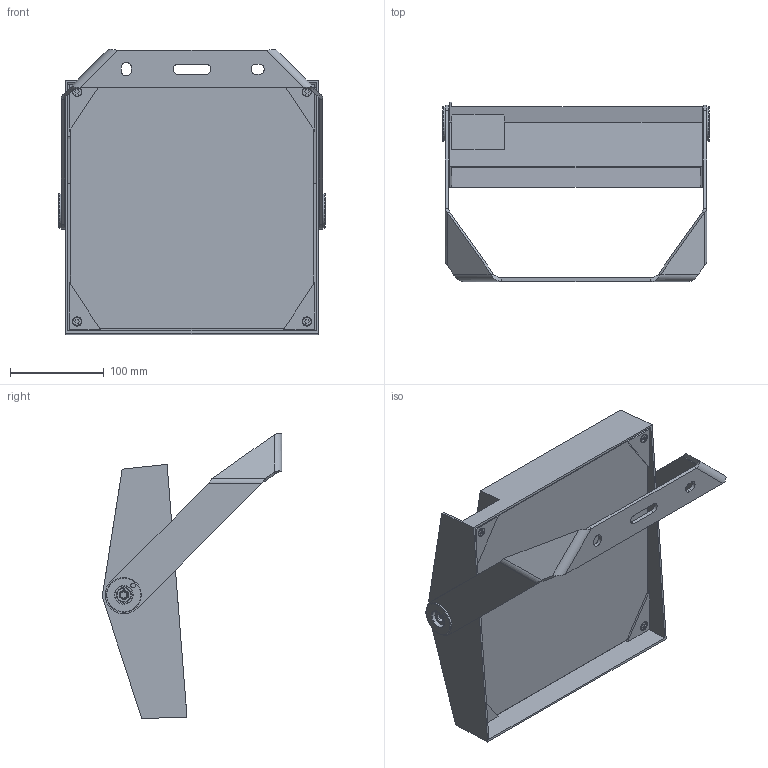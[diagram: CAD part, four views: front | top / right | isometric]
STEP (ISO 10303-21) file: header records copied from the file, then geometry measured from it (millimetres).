
FILE_DESCRIPTION((''),'2;1');
FILE_NAME('STAFFA_SW0003','2025-07-24T14:38:05',('Piccioli'),(''),'CREO PARAMETRIC BY PTC INC, 2025010','CREO PARAMETRIC BY PTC INC, 2025010','');
FILE_SCHEMA(('CONFIG_CONTROL_DESIGN'));
Length unit declared in the file: millimetre
Products named in the file (1): STAFFA_SW0003
Bounding box: 284 x 191.36 x 303.92 mm (x, y, z)
Surface area: 533051.8 mm2 (no closed solid volume)
Topology: 0 solids, 53 shells, 710 faces, 2986 edges, 2331 vertices
Faces by surface type: plane 453, cylinder 149, bspline 42, torus 32, sphere 18, cone 16
Entity records: 41943 total; most frequent: CARTESIAN_POINT 17569, DIRECTION 4581, ORIENTED_EDGE 4497, EDGE_CURVE 2986, VECTOR 2375, LINE 2375, VERTEX_POINT 2331, AXIS2_PLACEMENT_3D 1103
